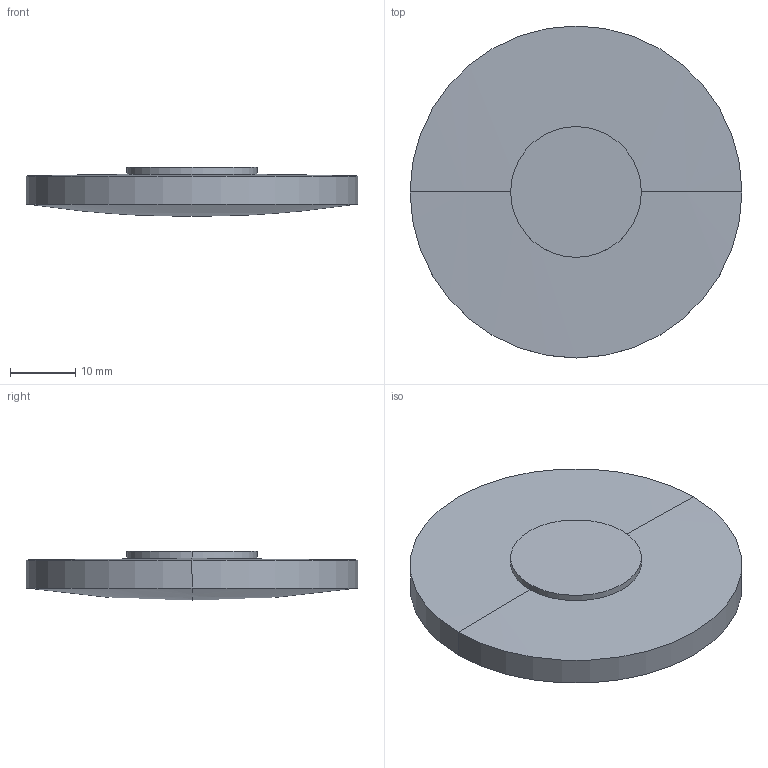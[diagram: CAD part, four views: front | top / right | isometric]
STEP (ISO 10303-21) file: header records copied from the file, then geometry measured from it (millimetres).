
FILE_DESCRIPTION(('STEP AP214'),'1');
FILE_NAME('LLU-51300.STEP','2020-03-09T17:42:16',(' '),(' '),'Spatial InterOp 3D',' ',' ');
FILE_SCHEMA(('AUTOMOTIVE_DESIGN { 1 0 10303 214 1 1 1 1 }'));
Length unit declared in the file: millimetre
Products named in the file (1): 1
Bounding box: 50.8 x 50.8 x 7.5 mm (x, y, z)
Volume: 11245.5 mm3; surface area: 5440.1 mm2
Topology: 2 solids, 2 shells, 10 faces, 20 edges, 10 vertices
Faces by surface type: sphere 4, cylinder 4, plane 2
Entity records: 255 total; most frequent: DIRECTION 52, CARTESIAN_POINT 38, ORIENTED_EDGE 32, AXIS2_PLACEMENT_3D 24, EDGE_CURVE 16, CIRCLE 12, ADVANCED_FACE 10, FACE_OUTER_BOUND 10
